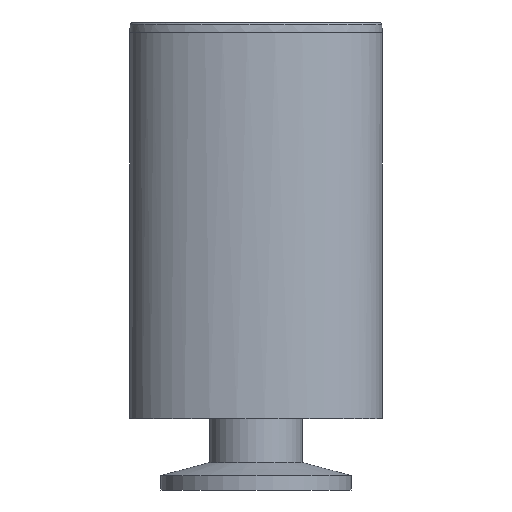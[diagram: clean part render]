
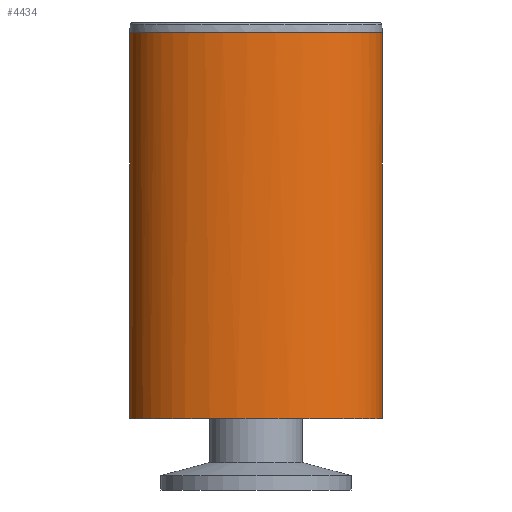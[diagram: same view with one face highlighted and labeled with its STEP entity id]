
A CAD part, front view. The second image highlights one B-rep face of the part: STEP entity #4434.
In plain terms, the highlighted free-form (B-spline) face has degree [3, 1] with [11, 2] control points.
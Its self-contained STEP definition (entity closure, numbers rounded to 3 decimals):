
#264 = CARTESIAN_POINT ( 'NONE',  ( 20.718, 0.254, 115.515 ) ) ;
#449 = CARTESIAN_POINT ( 'NONE',  ( -32.282, 0.254, 115.515 ) ) ;
#606 = CARTESIAN_POINT ( 'NONE',  ( 20.718, 2.533, 115.515 ) ) ;
#954 = CARTESIAN_POINT ( 'NONE',  ( -32.282, 2.533, 34.515 ) ) ;
#1585 = CARTESIAN_POINT ( 'NONE',  ( -32.282, 0.254, 115.515 ) ) ;
#1694 = CARTESIAN_POINT ( 'NONE',  ( -5.782, -14.37, 115.515 ) ) ;
#1864 = CARTESIAN_POINT ( 'NONE',  ( -5.782, -14.37, 115.515 ) ) ;
#1892 = EDGE_CURVE ( 'NONE', #3616, #3194, #3684, .T. ) ;
#2199 = ORIENTED_EDGE ( 'NONE', *, *, #1892, .T. ) ;
#2782 = CARTESIAN_POINT ( 'NONE',  ( 20.718, 2.533, -29.655 ) ) ;
#2918 = CARTESIAN_POINT ( 'NONE',  ( 4.388, -13.16, 115.515 ) ) ;
#3006 = CARTESIAN_POINT ( 'NONE',  ( -24.674, -9.674, 115.515 ) ) ;
#3112 = CARTESIAN_POINT ( 'NONE',  ( 20.718, 2.533, 34.515 ) ) ;
#3194 = VERTEX_POINT ( 'NONE', #8395 ) ;
#3616 = VERTEX_POINT ( 'NONE', #3969 ) ;
#3684 = LINE ( 'NONE', #2782, #5725 ) ;
#3687 = EDGE_LOOP ( 'NONE', ( #15579, #4791, #2199, #9325 ) ) ;
#3741 = CARTESIAN_POINT ( 'NONE',  ( 13.109, -9.674, 34.515 ) ) ;
#3834 = CARTESIAN_POINT ( 'NONE',  ( 20.718, 2.533, 34.515 ) ) ;
#3926 = CARTESIAN_POINT ( 'NONE',  ( -24.674, -9.674, 34.515 ) ) ;
#3953 = CARTESIAN_POINT ( 'NONE',  ( -32.282, 2.533, -29.655 ) ) ;
#3969 = CARTESIAN_POINT ( 'NONE',  ( 20.718, 2.533, 34.515 ) ) ;
#4263 = CARTESIAN_POINT ( 'NONE',  ( 19.175, -4.303, 115.515 ) ) ;
#4275 = CARTESIAN_POINT ( 'NONE',  ( -30.739, -4.303, 34.515 ) ) ;
#4362 = CARTESIAN_POINT ( 'NONE',  ( -32.282, 0.254, 34.515 ) ) ;
#4434 = ADVANCED_FACE ( 'NONE', ( #8293 ), #13576, .T. ) ;
#4718 = EDGE_CURVE ( 'NONE', #13547, #3194, #9102, .T. ) ;
#4791 = ORIENTED_EDGE ( 'NONE', *, *, #11433, .F. ) ;
#4997 = CARTESIAN_POINT ( 'NONE',  ( 4.388, -13.16, 34.515 ) ) ;
#5088 = CARTESIAN_POINT ( 'NONE',  ( 19.175, -4.303, 34.515 ) ) ;
#5174 = CARTESIAN_POINT ( 'NONE',  ( -5.782, -14.37, 34.515 ) ) ;
#5202 = LINE ( 'NONE', #3953, #9880 ) ;
#5616 = CARTESIAN_POINT ( 'NONE',  ( -30.739, -4.303, 115.515 ) ) ;
#5725 = VECTOR ( 'NONE', #10908, 1000. ) ;
#5779 = CARTESIAN_POINT ( 'NONE',  ( -15.953, -13.16, 115.515 ) ) ;
#6426 = CARTESIAN_POINT ( 'NONE',  ( -32.282, 0.254, 34.515 ) ) ;
#6606 = CARTESIAN_POINT ( 'NONE',  ( -30.739, -4.303, 34.515 ) ) ;
#7953 = CARTESIAN_POINT ( 'NONE',  ( 20.718, 0.254, 34.515 ) ) ;
#8293 = FACE_OUTER_BOUND ( 'NONE', #3687, .T. ) ;
#8373 = CARTESIAN_POINT ( 'NONE',  ( -32.282, 2.533, 34.515 ) ) ;
#8395 = CARTESIAN_POINT ( 'NONE',  ( 20.718, 2.533, 115.515 ) ) ;
#8471 = CARTESIAN_POINT ( 'NONE',  ( 4.388, -13.16, 115.515 ) ) ;
#8561 = CARTESIAN_POINT ( 'NONE',  ( -15.953, -13.16, 115.515 ) ) ;
#8640 = CARTESIAN_POINT ( 'NONE',  ( -32.282, 2.533, 115.515 ) ) ;
#9102 = B_SPLINE_CURVE_WITH_KNOTS ( 'NONE', 3,
 ( #8640, #1585, #9726, #3006, #5779, #1864, #2918, #16754, #4263, #264, #606 ),
 .UNSPECIFIED., .F., .F.,
 ( 4, 1, 1, 1, 1, 1, 1, 1, 4 ),
 ( 0., 0.125, 0.25, 0.375, 0.5, 0.625, 0.75, 0.875, 1. ),
 .UNSPECIFIED. ) ;
#9325 = ORIENTED_EDGE ( 'NONE', *, *, #4718, .F. ) ;
#9561 = CARTESIAN_POINT ( 'NONE',  ( 4.388, -13.16, 34.515 ) ) ;
#9726 = CARTESIAN_POINT ( 'NONE',  ( -30.739, -4.303, 115.515 ) ) ;
#9817 = CARTESIAN_POINT ( 'NONE',  ( 20.718, 0.254, 34.515 ) ) ;
#9880 = VECTOR ( 'NONE', #17342, 1000. ) ;
#10352 = B_SPLINE_CURVE_WITH_KNOTS ( 'NONE', 3,
 ( #3834, #7953, #5088, #3741, #4997, #5174, #14432, #3926, #6606, #6426, #14694 ),
 .UNSPECIFIED., .F., .F.,
 ( 4, 1, 1, 1, 1, 1, 1, 1, 4 ),
 ( 0., 0.125, 0.25, 0.375, 0.5, 0.625, 0.75, 0.875, 1. ),
 .UNSPECIFIED. ) ;
#10908 = DIRECTION ( 'NONE',  ( 0., 0., 1. ) ) ;
#11057 = CARTESIAN_POINT ( 'NONE',  ( -32.282, 2.533, 115.515 ) ) ;
#11149 = CARTESIAN_POINT ( 'NONE',  ( -24.674, -9.674, 34.515 ) ) ;
#11319 = CARTESIAN_POINT ( 'NONE',  ( 13.109, -9.674, 115.515 ) ) ;
#11433 = EDGE_CURVE ( 'NONE', #3616, #14257, #10352, .T. ) ;
#12303 = CARTESIAN_POINT ( 'NONE',  ( -5.782, -14.37, 34.515 ) ) ;
#12390 = CARTESIAN_POINT ( 'NONE',  ( -15.953, -13.16, 34.515 ) ) ;
#12705 = CARTESIAN_POINT ( 'NONE',  ( -32.282, 2.533, 115.515 ) ) ;
#13547 = VERTEX_POINT ( 'NONE', #12705 ) ;
#13576 = B_SPLINE_SURFACE_WITH_KNOTS ( 'NONE', 3, 1, ( 
 ( #8373, #11057 ),
 ( #4362, #449 ),
 ( #4275, #5616 ),
 ( #11149, #16504 ),
 ( #12390, #8561 ),
 ( #12303, #1694 ),
 ( #9561, #8471 ),
 ( #13717, #11319 ),
 ( #16672, #16584 ),
 ( #9817, #13630 ),
 ( #3112, #15227 ) ),
 .UNSPECIFIED., .F., .F., .F.,
 ( 4, 1, 1, 1, 1, 1, 1, 1, 4 ),
 ( 2, 2 ),
 ( 0., 0.125, 0.25, 0.375, 0.5, 0.625, 0.75, 0.875, 1. ),
 ( 0., 1. ),
 .UNSPECIFIED. ) ;
#13630 = CARTESIAN_POINT ( 'NONE',  ( 20.718, 0.254, 115.515 ) ) ;
#13717 = CARTESIAN_POINT ( 'NONE',  ( 13.109, -9.674, 34.515 ) ) ;
#14257 = VERTEX_POINT ( 'NONE', #954 ) ;
#14432 = CARTESIAN_POINT ( 'NONE',  ( -15.953, -13.16, 34.515 ) ) ;
#14623 = EDGE_CURVE ( 'NONE', #14257, #13547, #5202, .T. ) ;
#14694 = CARTESIAN_POINT ( 'NONE',  ( -32.282, 2.533, 34.515 ) ) ;
#15227 = CARTESIAN_POINT ( 'NONE',  ( 20.718, 2.533, 115.515 ) ) ;
#15579 = ORIENTED_EDGE ( 'NONE', *, *, #14623, .F. ) ;
#16504 = CARTESIAN_POINT ( 'NONE',  ( -24.674, -9.674, 115.515 ) ) ;
#16584 = CARTESIAN_POINT ( 'NONE',  ( 19.175, -4.303, 115.515 ) ) ;
#16672 = CARTESIAN_POINT ( 'NONE',  ( 19.175, -4.303, 34.515 ) ) ;
#16754 = CARTESIAN_POINT ( 'NONE',  ( 13.109, -9.674, 115.515 ) ) ;
#17342 = DIRECTION ( 'NONE',  ( 0., 0., 1. ) ) ;
